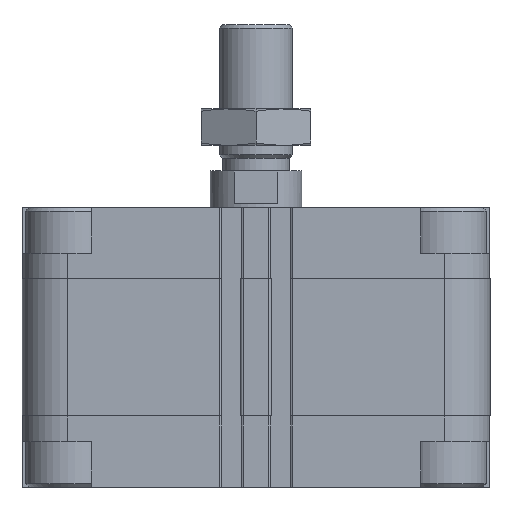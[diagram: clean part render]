
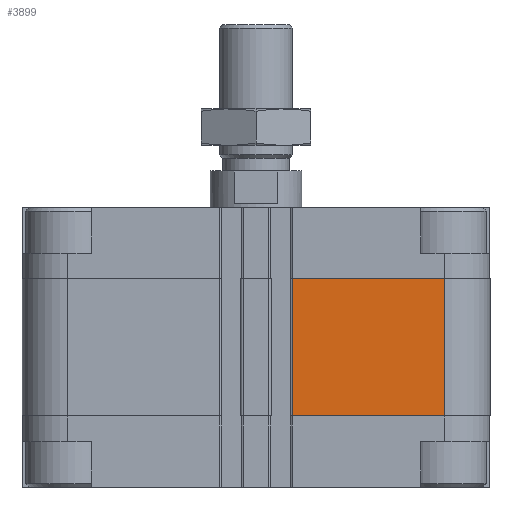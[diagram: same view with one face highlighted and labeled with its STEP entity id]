
A CAD part, front view. The second image highlights one B-rep face of the part: STEP entity #3899.
In plain terms, the highlighted planar face has unit normal (0, -1, 0).
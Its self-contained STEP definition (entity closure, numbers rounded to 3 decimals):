
#22 = VECTOR ( 'NONE', #4341, 1000. ) ;
#3331 = DIRECTION ( 'NONE',  ( 1., 0., 0. ) ) ;
#3899 = ADVANCED_FACE ( 'NONE', ( #10114 ), #5160, .T. ) ;
#4291 = CARTESIAN_POINT ( 'NONE',  ( 9.95, -64., -57. ) ) ;
#4295 = AXIS2_PLACEMENT_3D ( 'NONE', #8674, #5372, #5048 ) ;
#4341 = DIRECTION ( 'NONE',  ( 1., 0., 0. ) ) ;
#4563 = CARTESIAN_POINT ( 'NONE',  ( 51.5, -64., -57. ) ) ;
#5048 = DIRECTION ( 'NONE',  ( -1., 0., 0. ) ) ;
#5160 = PLANE ( 'NONE',  #4295 ) ;
#5211 = VECTOR ( 'NONE', #5314, 1000. ) ;
#5314 = DIRECTION ( 'NONE',  ( 0., 0., 1. ) ) ;
#5372 = DIRECTION ( 'NONE',  ( 0., -1., 0. ) ) ;
#6237 = ORIENTED_EDGE ( 'NONE', *, *, #8506, .T. ) ;
#6423 = LINE ( 'NONE', #17972, #22 ) ;
#8072 = LINE ( 'NONE', #18408, #8510 ) ;
#8506 = EDGE_CURVE ( 'NONE', #16962, #11972, #15539, .T. ) ;
#8510 = VECTOR ( 'NONE', #3331, 1000. ) ;
#8674 = CARTESIAN_POINT ( 'NONE',  ( 9.95, -64., -57. ) ) ;
#8811 = ORIENTED_EDGE ( 'NONE', *, *, #10370, .F. ) ;
#8839 = CARTESIAN_POINT ( 'NONE',  ( 51.5, -64., -57. ) ) ;
#9604 = CARTESIAN_POINT ( 'NONE',  ( 9.95, -64., -19.5 ) ) ;
#9737 = CARTESIAN_POINT ( 'NONE',  ( 51.5, -64., -19.5 ) ) ;
#10114 = FACE_OUTER_BOUND ( 'NONE', #13641, .T. ) ;
#10286 = ORIENTED_EDGE ( 'NONE', *, *, #21133, .T. ) ;
#10370 = EDGE_CURVE ( 'NONE', #15979, #13595, #14308, .T. ) ;
#11966 = EDGE_CURVE ( 'NONE', #13595, #11972, #6423, .T. ) ;
#11972 = VERTEX_POINT ( 'NONE', #9737 ) ;
#12774 = DIRECTION ( 'NONE',  ( 0., 0., 1. ) ) ;
#13595 = VERTEX_POINT ( 'NONE', #9604 ) ;
#13641 = EDGE_LOOP ( 'NONE', ( #17022, #8811, #10286, #6237 ) ) ;
#14308 = LINE ( 'NONE', #4291, #14484 ) ;
#14484 = VECTOR ( 'NONE', #12774, 1000. ) ;
#15539 = LINE ( 'NONE', #8839, #5211 ) ;
#15979 = VERTEX_POINT ( 'NONE', #16740 ) ;
#16740 = CARTESIAN_POINT ( 'NONE',  ( 9.95, -64., -57. ) ) ;
#16962 = VERTEX_POINT ( 'NONE', #4563 ) ;
#17022 = ORIENTED_EDGE ( 'NONE', *, *, #11966, .F. ) ;
#17972 = CARTESIAN_POINT ( 'NONE',  ( 9.95, -64., -19.5 ) ) ;
#18408 = CARTESIAN_POINT ( 'NONE',  ( 9.95, -64., -57. ) ) ;
#21133 = EDGE_CURVE ( 'NONE', #15979, #16962, #8072, .T. ) ;
